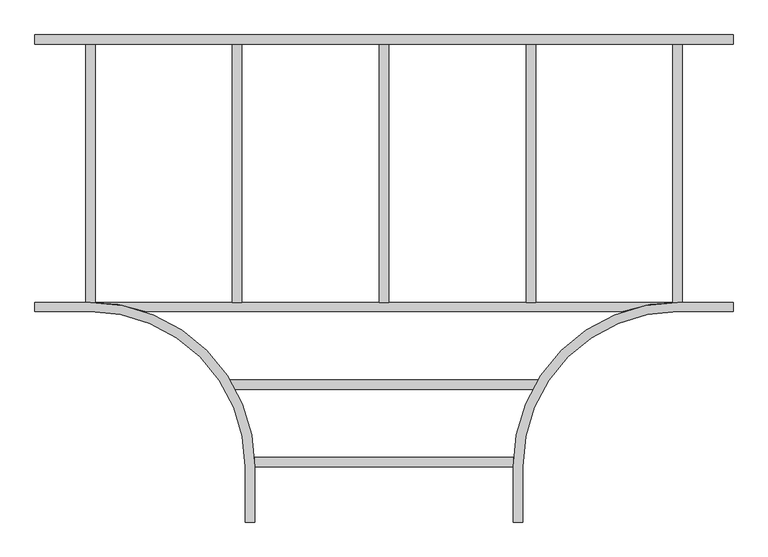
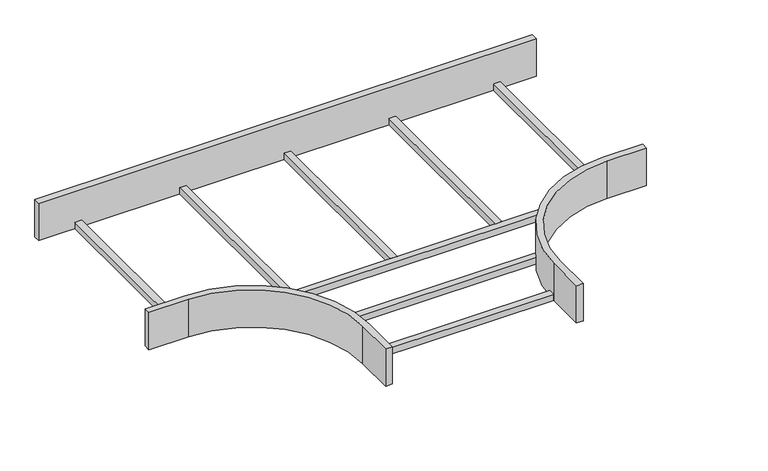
"""IFC4 building model written with IfcOpenShell, lengths in millimetres: cable carrier fitting geometry, BAKS_LD_TEE_Ladder horizontal tee_TDV : TDVC_H150."""

from ifc_helpers import new_model, si_unit, frame, origin, place, context, project, spatial, polyline, circle_curve, outline, extrude, faceted_brep, source, transform, mapped, element, save
from ifc_brep_helpers import plane_surface, cylinder_surface, revolved_surface, advanced_brep


def cable_carrier_fitting_d9dc0397(model_context):
    return source(origin(), model_context, "Body", "SolidModel", [
        extrude(outline(polyline([(416.8889052, -559.6), (416.8889052, -585.0), (-416.8889052, -585.0), (-416.8889052, -559.6), (416.8889052, -559.6)])), frame((0.0, 0.0, -75.0), z_axis=(0.0, 0.0, 1.0), x_axis=(1.0, 0.0, 0.0)), (0.0, 0.0, 1.0), 25.4),
        extrude(outline(polyline([(349.6, -769.6), (349.6, -795.0), (-349.6, -795.0), (-349.6, -769.6), (349.6, -769.6)])), frame((0.0, 0.0, -75.0), z_axis=(0.0, 0.0, 1.0), x_axis=(1.0, 0.0, 0.0)), (0.0, 0.0, 1.0), 25.4),
        extrude(outline(polyline([(807.7, 349.6), (807.7, -349.6), (782.3, -349.6), (782.3, 349.6), (807.7, 349.6)])), frame((0.0, 0.0, -75.0), z_axis=(0.0, 0.0, 1.0), x_axis=(1.0, 0.0, 0.0)), (0.0, 0.0, 1.0), 25.4),
        extrude(outline(polyline([(410.2, 349.6), (410.2, -349.6), (384.8, -349.6), (384.8, 349.6), (410.2, 349.6)])), frame((0.0, 0.0, -75.0), z_axis=(0.0, 0.0, 1.0), x_axis=(1.0, 0.0, 0.0)), (0.0, 0.0, 1.0), 25.4),
        extrude(outline(polyline([(12.7, 349.6), (12.7, -349.6), (-12.7, -349.6), (-12.7, 349.6), (12.7, 349.6)])), frame((0.0, 0.0, -75.0), z_axis=(0.0, 0.0, 1.0), x_axis=(1.0, 0.0, 0.0)), (0.0, 0.0, 1.0), 25.4),
        extrude(outline(polyline([(-384.8, 349.6), (-384.8, -349.6), (-410.2, -349.6), (-410.2, 349.6), (-384.8, 349.6)])), frame((0.0, 0.0, -75.0), z_axis=(0.0, 0.0, 1.0), x_axis=(1.0, 0.0, 0.0)), (0.0, 0.0, 1.0), 25.4),
        extrude(outline(polyline([(-782.3, 349.6), (-782.3, -349.6), (-807.7, -349.6), (-807.7, 349.6), (-782.3, 349.6)])), frame((0.0, 0.0, -75.0), z_axis=(0.0, 0.0, 1.0), x_axis=(1.0, 0.0, 0.0)), (0.0, 0.0, 1.0), 25.4),
        advanced_brep(
        [(-375.0, -795.0, 75.0), (-375.0, -945.0, 75.0), (-349.6, -945.0, 75.0), (-349.6, -795.0, 75.0), (-795.0, -349.6, 75.0), (-945.0, -349.6, 75.0), (-945.0, -375.0, 75.0), (-795.0, -375.0, 75.0), (375.0, -795.0, 75.0), (795.0, -375.0, 75.0), (945.0, -375.0, 75.0), (945.0, -349.6, 75.0), (795.0, -349.6, 75.0), (349.6, -795.0, 75.0), (349.6, -945.0, 75.0), (375.0, -945.0, 75.0), (-375.0, -795.0, -75.0), (-795.0, -375.0, -75.0), (-945.0, -375.0, -75.0), (-945.0, -349.6, -75.0), (945.0, -349.6, -75.0), (945.0, -375.0, -75.0), (795.0, -375.0, -75.0), (375.0, -795.0, -75.0), (375.0, -945.0, -75.0), (349.6, -945.0, -75.0), (349.6, -795.0, -75.0), (646.7395535, -375.0, -75.0), (-646.7395535, -375.0, -75.0), (-349.6, -795.0, -75.0), (-349.6, -945.0, -75.0), (-375.0, -945.0, -75.0), (-646.7395535, -375.0, -49.6), (-795.0, -349.6, -49.6), (795.0, -349.6, -49.6), (-795.0, -375.0, -49.6), (795.0, -375.0, -49.6), (646.7395535, -375.0, -49.6)],
        [
            (0, 1),
            (1, 2),
            (2, 3),
            (3, 4, circle_curve(frame((-795.0, -795.0, 75.0), z_axis=(0.0, 0.0, 1.0), x_axis=(1.0, 0.0, 0.0)), 445.4)),
            (4, 5),
            (5, 6),
            (6, 7),
            (7, 0, circle_curve(frame((-795.0, -795.0, 75.0), z_axis=(0.0, 0.0, -1.0), x_axis=(1.0, 0.0, 0.0)), 420.0)),
            (8, 9, circle_curve(frame((795.0, -795.0, 75.0), z_axis=(0.0, 0.0, -1.0), x_axis=(1.0, 0.0, 0.0)), 420.0)),
            (9, 10),
            (10, 11),
            (11, 12),
            (12, 13, circle_curve(frame((795.0, -795.0, 75.0), z_axis=(0.0, 0.0, 1.0), x_axis=(1.0, 0.0, 0.0)), 445.4)),
            (13, 14),
            (14, 15),
            (15, 8),
            (16, 17, circle_curve(frame((-795.0, -795.0, -75.0), z_axis=(0.0, 0.0, 1.0), x_axis=(1.0, 0.0, 0.0)), 420.0)),
            (17, 18),
            (18, 19),
            (19, 20),
            (20, 21),
            (21, 22),
            (22, 23, circle_curve(frame((795.0, -795.0, -75.0), z_axis=(0.0, 0.0, 1.0), x_axis=(1.0, 0.0, 0.0)), 420.0)),
            (23, 24),
            (24, 25),
            (25, 26),
            (26, 27, circle_curve(frame((795.0, -795.0, -75.0), z_axis=(0.0, 0.0, -1.0), x_axis=(1.0, 0.0, 0.0)), 445.4)),
            (27, 28),
            (28, 29, circle_curve(frame((-795.0, -795.0, -75.0), z_axis=(0.0, 0.0, -1.0), x_axis=(1.0, 0.0, 0.0)), 445.4)),
            (29, 30),
            (30, 31),
            (31, 16),
            (0, 16),
            (31, 1),
            (30, 2),
            (29, 3),
            (28, 32),
            (32, 33, circle_curve(frame((-795.0, -795.0, -49.6), z_axis=(0.0, 0.0, 1.0), x_axis=(1.0, 0.0, 0.0)), 445.4)),
            (33, 4),
            (33, 34),
            (34, 12),
            (11, 20),
            (19, 5),
            (18, 6),
            (17, 35),
            (35, 7),
            (8, 23),
            (22, 36),
            (36, 9),
            (21, 10),
            (34, 37, circle_curve(frame((795.0, -795.0, -49.6), z_axis=(0.0, 0.0, 1.0), x_axis=(1.0, 0.0, 0.0)), 445.4)),
            (37, 27),
            (26, 13),
            (25, 14),
            (24, 15),
            (32, 37),
        ],
        [
            plane_surface(frame((-375.0, -795.0, 75.0), z_axis=(0.0, 0.0, 1.0), x_axis=(0.0, -1.0, 0.0))),
            plane_surface(frame((-375.0, -795.0, -75.0), z_axis=(0.0, 0.0, -1.0), x_axis=(0.0, 1.0, 0.0))),
            plane_surface(frame((-375.0, -795.0, 75.0), z_axis=(-1.0, 0.0, 0.0), x_axis=(0.0, 0.0, -1.0))),
            plane_surface(frame((-375.0, -945.0, 75.0), z_axis=(0.0, -1.0, 0.0), x_axis=(0.0, 0.0, -1.0))),
            plane_surface(frame((-349.6, -945.0, 75.0), z_axis=(1.0, 0.0, 0.0), x_axis=(0.0, 0.0, -1.0))),
            cylinder_surface(frame((-795.0, -795.0, -75.0), z_axis=(0.0, 0.0, 1.0), x_axis=(1.0, 0.0, 0.0)), 445.4),
            plane_surface(frame((-795.0, -349.6, 75.0), z_axis=(0.0, 1.0, 0.0), x_axis=(0.0, 0.0, -1.0))),
            plane_surface(frame((-945.0, -349.6, 75.0), z_axis=(-1.0, 0.0, 0.0), x_axis=(0.0, 0.0, -1.0))),
            plane_surface(frame((-945.0, -375.0, 75.0), z_axis=(0.0, -1.0, 0.0), x_axis=(0.0, 0.0, -1.0))),
            revolved_surface(polyline([(-375.0, -795.0, -75.0), (-375.0, -795.0, 75.0)]), (-795.0, -795.0, -75.0), (0.0, 0.0, -1.0)),
            revolved_surface(polyline([(1215.0, -795.0, -75.0), (1215.0, -795.0, 75.0)]), (795.0, -795.0, 0.0), (0.0, 0.0, -1.0)),
            plane_surface(frame((795.0, -375.0, 75.0), z_axis=(0.0, -1.0, 0.0), x_axis=(0.0, 0.0, -1.0))),
            plane_surface(frame((945.0, -375.0, 75.0), z_axis=(1.0, 0.0, 0.0), x_axis=(0.0, 0.0, -1.0))),
            cylinder_surface(frame((795.0, -795.0, 0.0), z_axis=(0.0, 0.0, 1.0), x_axis=(1.0, 0.0, 0.0)), 445.4),
            plane_surface(frame((349.6, -795.0, 75.0), z_axis=(-1.0, 0.0, 0.0), x_axis=(0.0, 0.0, -1.0))),
            plane_surface(frame((349.6, -945.0, 75.0), z_axis=(0.0, -1.0, 0.0), x_axis=(0.0, 0.0, -1.0))),
            plane_surface(frame((375.0, -945.0, 75.0), z_axis=(1.0, 0.0, 0.0), x_axis=(0.0, 0.0, -1.0))),
            plane_surface(frame((-795.0, -349.6, -49.6), z_axis=(0.0, 0.0, 1.0), x_axis=(-1.0, 0.0, 0.0))),
            plane_surface(frame((-795.0, -375.0, -49.6), z_axis=(0.0, -1.0, 0.0), x_axis=(0.0, 0.0, -1.0))),
        ],
        [
            (0, [[1, 2, 3, 4, 5, 6, 7, 8]]),
            (0, [[9, 10, 11, 12, 13, 14, 15, 16]]),
            (1, [[17, 18, 19, 20, 21, 22, 23, 24, 25, 26, 27, 28, 29, 30, 31, 32]]),
            (2, [[-1, 33, -32, 34]]),
            (3, [[-2, -34, -31, 35]]),
            (4, [[-3, -35, -30, 36]]),
            (5, [[-4, -36, -29, 37, 38, 39]]),
            (6, [[-5, -39, 40, 41, -12, 42, -20, 43]]),
            (7, [[-6, -43, -19, 44]]),
            (8, [[-7, -44, -18, 45, 46]]),
            (9, [[-8, -46, -45, -17, -33]]),
            (10, [[-9, 47, -23, 48, 49]]),
            (11, [[-10, -49, -48, -22, 50]]),
            (12, [[-11, -50, -21, -42]]),
            (13, [[-13, -41, 51, 52, -27, 53]]),
            (14, [[-14, -53, -26, 54]]),
            (15, [[-15, -54, -25, 55]]),
            (16, [[-16, -55, -24, -47]]),
            (17, [[-40, -38, 56, -51]]),
            (18, [[-28, -52, -56, -37]]),
        ],
    ),
        faceted_brep([(945.0, 375.0, 75.0), (-945.0, 375.0, 75.0), (-945.0, 349.6, 75.0), (945.0, 349.6, 75.0), (945.0, 375.0, -75.0), (945.0, 349.6, -75.0), (-945.0, 349.6, -75.0), (-945.0, 375.0, -75.0)], [[[0, 1, 2, 3]], [[4, 5, 6, 7]], [[1, 0, 4, 7]], [[2, 1, 7, 6]], [[3, 2, 6, 5]], [[0, 3, 5, 4]]]),
    ])


if __name__ == "__main__":
    model = new_model("IFC4")
    model_context = context("Model", 3, world=origin())
    ifc_project = project(units=[si_unit("LENGTHUNIT", "METRE", prefix="MILLI")], contexts=[model_context])
    site = spatial("IfcSite", under=ifc_project)
    building = spatial("IfcBuilding", under=site)
    placement = place(None, origin())
    cable_carrier_fitting_shape = cable_carrier_fitting_d9dc0397(model_context)
    element("IfcCableCarrierFitting", 1, ObjectType="BAKS_LD_TEE_Ladder horizontal tee_TDV : TDVC_H150", at=placement, inside=building, context=model_context, shape_type="MappedRepresentation", body=[
        mapped(cable_carrier_fitting_shape, transform((0.0, 0.0, 0.0), x_axis=(1.0, 0.0, 0.0), y_axis=(0.0, 1.0, 0.0), z_axis=(0.0, 0.0, 1.0))),
    ])
    save(model, "model.ifc")
